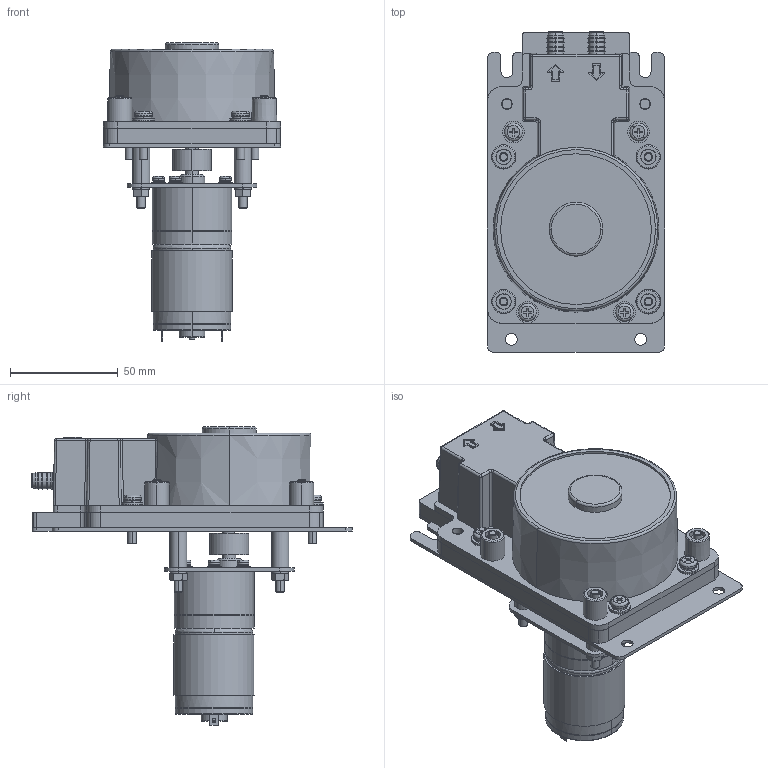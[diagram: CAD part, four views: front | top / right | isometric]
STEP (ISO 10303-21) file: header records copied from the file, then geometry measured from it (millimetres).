
FILE_DESCRIPTION (( 'STEP AP214' ), '1' );
FILE_NAME ('RP-WII-700Z.STEP', '2023-01-18T07:22:10', ( '' ), ( '' ), 'SwSTEP 2.0', 'SolidWorks 2022', '' );
FILE_SCHEMA (( 'AUTOMOTIVE_DESIGN' ));
Length unit declared in the file: millimetre
Products named in the file (18): WEB用ジョイナー; For_WEB_RPW204F P 1-1 CASE; RPW204F P 1 BASE; RPW204F P 1-23 WASHER 4.5-10; RPW204F P 1-4 PIPE; RPW204F P 1-3 SLEVE; RP-WII-700Z; RPW204F P 1-6 SCREW 4X30; RPW204F P 1-26 WASHER 3.1-6.5; TP-3640C-HM25; RPW204F P 1-7 SPRING WASHER; RPW204F P 1-24 SCREW 4X20; RPW204F P 2 WASHER; RPW204F P 1 NUT; RPW204F P 1-5 MOTOR PLATE; RPW204F P 1-11 JOINT; RPW204F P 1-2 BASE PLATE; RPW204F P 1-27 SCREW 3X5
Assembly tree (64 placements, depth 2):
  RP-WII-700Z
    RPW204F P 1 BASE
    RPW204F P 1-2 BASE PLATE
    RPW204F P 1-3 SLEVE  x4
    RPW204F P 1-4 PIPE  x4
    RPW204F P 1-5 MOTOR PLATE
    RPW204F P 1-6 SCREW 4X30  x4
    RPW204F P 1-7 SPRING WASHER  x12
    RPW204F P 1 NUT  x4
    RPW204F P 1-11 JOINT
    RPW204F P 1-23 WASHER 4.5-10  x8
    RPW204F P 1-24 SCREW 4X20  x8
    RPW204F P 1-26 WASHER 3.1-6.5  x4
    RPW204F P 1-27 SCREW 3X5  x4
    RPW204F P 2 WASHER  x4
    WEB用ジョイナー  x2
    For_WEB_RPW204F P 1-1 CASE
    TP-3640C-HM25
Bounding box: 82 x 148.5 x 138.2 mm (x, y, z)
Volume: 392310.5 mm3; surface area: 125604.6 mm2
Topology: 64 solids, 66 shells, 1744 faces, 4365 edges, 2842 vertices
Faces by surface type: cylinder 806, plane 712, cone 102, torus 100, bspline 18, sphere 6
Entity records: 29999 total; most frequent: CARTESIAN_POINT 6166, DIRECTION 5166, ORIENTED_EDGE 4570, EDGE_CURVE 2285, AXIS2_PLACEMENT_3D 2031, VERTEX_POINT 1493, VECTOR 1104, LINE 1104
